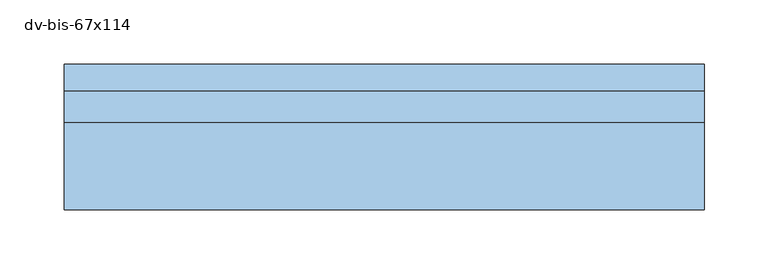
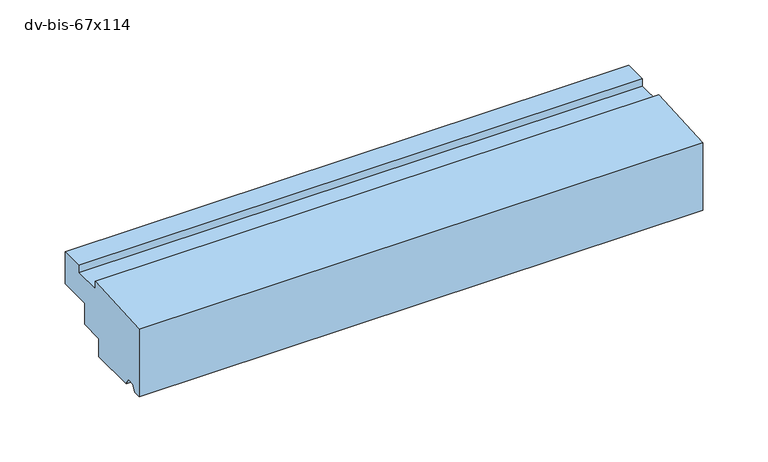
"""IFC4 building model written with IfcOpenShell, lengths in millimetres: window geometry, NLRS_30_WIN_bovendorpel_sh_gen_TOBA-JM : dv-bis-67x114."""

from ifc_helpers import new_model, si_unit, frame, origin, place, context, project, spatial, polyline, outline, extrude, source, transform, mapped, element, save


def dv_bis_67x114_87e64734(model_context):
    return source(origin(), model_context, "Body", "SweptSolid", [
        extrude(outline(polyline([(68.0, -7.0), (93.0, -7.0), (93.0, 0.0), (114.0, 0.0), (114.0, -30.0), (84.0, -30.0), (84.0, -50.0), (62.0, -50.0), (62.0, -67.0), (20.0, -67.0), (17.0, -61.0), (10.0, -61.0), (7.0, -67.0), (0.0, -67.0), (0.0, -3.563729), (68.0, 0.0), (68.0, -7.0)])), frame((-250.0, 0.0, 0.0), z_axis=(1.0, 0.0, 0.0), x_axis=(0.0, 1.0, 0.0)), (0.0, 0.0, 1.0), 500.0),
    ])


if __name__ == "__main__":
    model = new_model("IFC4")
    model_context = context("Model", 3, world=origin())
    ifc_project = project(units=[si_unit("LENGTHUNIT", "METRE", prefix="MILLI")], contexts=[model_context])
    site = spatial("IfcSite", under=ifc_project)
    building = spatial("IfcBuilding", under=site)
    placement = place(None, origin())
    dv_bis_67x114_shape = dv_bis_67x114_87e64734(model_context)
    element("IfcWindow", 1, ObjectType="NLRS_30_WIN_bovendorpel_sh_gen_TOBA-JM : dv-bis-67x114", at=placement, inside=building, context=model_context, shape_type="MappedRepresentation", body=[
        mapped(dv_bis_67x114_shape, transform((0.0, 0.0, 0.0), x_axis=(1.0, 0.0, 0.0), y_axis=(0.0, 1.0, 0.0), z_axis=(0.0, 0.0, 1.0))),
    ])
    save(model, "model.ifc")
